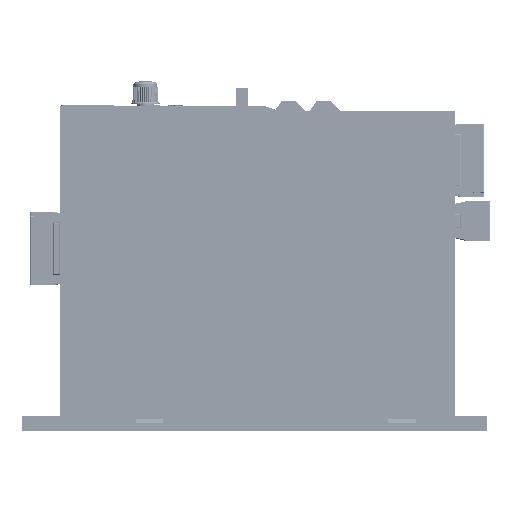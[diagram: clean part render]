
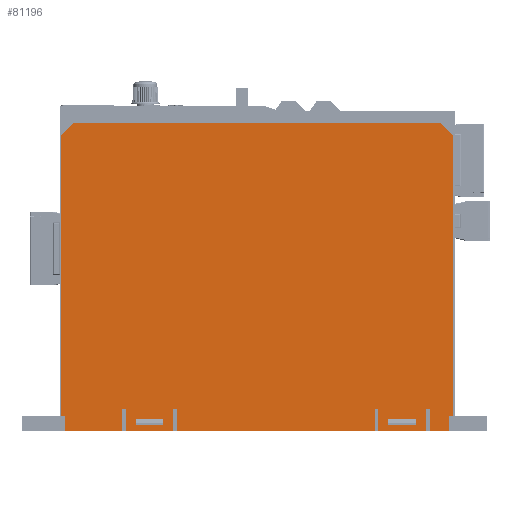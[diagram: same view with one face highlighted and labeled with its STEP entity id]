
A CAD part, front view. The second image highlights one B-rep face of the part: STEP entity #81196.
In plain terms, the highlighted planar face has unit normal (0, -1, 0).
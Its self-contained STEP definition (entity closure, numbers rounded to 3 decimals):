
#81196=ADVANCED_FACE('',(#149916,#149918,#149920),#149922,.T.);
#149916=FACE_BOUND('',#149917,.T.);
#149917=EDGE_LOOP('',(#204791,#204792,#204793,#204794,#204795,#204796,#204797,#204798,
#204799,#204800,#204801,#204802,#204803,#204804,#204805,#204806,#204807,#204808,
#204809,#204810,#204811,#204812,#204813,#204814,#204815,#204816));
#149918=FACE_BOUND('',#149919,.T.);
#149919=EDGE_LOOP('',(#204817,#204818,#204819,#204820));
#149920=FACE_BOUND('',#149921,.T.);
#149921=EDGE_LOOP('',(#204821,#204822,#204823,#204824));
#149922=PLANE('',#149923);
#149923=AXIS2_PLACEMENT_3D('',#149924,#149925,#149926);
#149924=CARTESIAN_POINT('',(-94.,-60.,-8.));
#149925=DIRECTION('',(0.,-1.,0.));
#149926=DIRECTION('',(1.,0.,0.));
#204791=ORIENTED_EDGE('',*,*,#239505,.F.);
#204792=ORIENTED_EDGE('',*,*,#239506,.T.);
#204793=ORIENTED_EDGE('',*,*,#239507,.T.);
#204794=ORIENTED_EDGE('',*,*,#239508,.F.);
#204795=ORIENTED_EDGE('',*,*,#239509,.T.);
#204796=ORIENTED_EDGE('',*,*,#239510,.F.);
#204797=ORIENTED_EDGE('',*,*,#239511,.F.);
#204798=ORIENTED_EDGE('',*,*,#239512,.F.);
#204799=ORIENTED_EDGE('',*,*,#239455,.T.);
#204800=ORIENTED_EDGE('',*,*,#239513,.T.);
#204801=ORIENTED_EDGE('',*,*,#239514,.F.);
#204802=ORIENTED_EDGE('',*,*,#239475,.F.);
#204803=ORIENTED_EDGE('',*,*,#239429,.T.);
#204804=ORIENTED_EDGE('',*,*,#239515,.T.);
#204805=ORIENTED_EDGE('',*,*,#239516,.F.);
#204806=ORIENTED_EDGE('',*,*,#239517,.F.);
#204807=ORIENTED_EDGE('',*,*,#239437,.T.);
#204808=ORIENTED_EDGE('',*,*,#239518,.T.);
#204809=ORIENTED_EDGE('',*,*,#239519,.F.);
#204810=ORIENTED_EDGE('',*,*,#239520,.F.);
#204811=ORIENTED_EDGE('',*,*,#239431,.T.);
#204812=ORIENTED_EDGE('',*,*,#239521,.T.);
#204813=ORIENTED_EDGE('',*,*,#239522,.F.);
#204814=ORIENTED_EDGE('',*,*,#239523,.F.);
#204815=ORIENTED_EDGE('',*,*,#239463,.T.);
#204816=ORIENTED_EDGE('',*,*,#239524,.T.);
#204817=ORIENTED_EDGE('',*,*,#239525,.F.);
#204818=ORIENTED_EDGE('',*,*,#239526,.F.);
#204819=ORIENTED_EDGE('',*,*,#239527,.F.);
#204820=ORIENTED_EDGE('',*,*,#239528,.F.);
#204821=ORIENTED_EDGE('',*,*,#239529,.F.);
#204822=ORIENTED_EDGE('',*,*,#239530,.F.);
#204823=ORIENTED_EDGE('',*,*,#239531,.F.);
#204824=ORIENTED_EDGE('',*,*,#239504,.F.);
#239429=EDGE_CURVE('',#296004,#296002,#296005,.T.);
#239431=EDGE_CURVE('',#296007,#296008,#296009,.T.);
#239437=EDGE_CURVE('',#296020,#296018,#296021,.T.);
#239455=EDGE_CURVE('',#296056,#296054,#296057,.T.);
#239463=EDGE_CURVE('',#296071,#296072,#296073,.T.);
#239475=EDGE_CURVE('',#296004,#296095,#296096,.T.);
#239504=EDGE_CURVE('',#296145,#296143,#296147,.T.);
#239505=EDGE_CURVE('',#296148,#296149,#296150,.T.);
#239506=EDGE_CURVE('',#296148,#296151,#296152,.T.);
#239507=EDGE_CURVE('',#296151,#296153,#296154,.T.);
#239508=EDGE_CURVE('',#296155,#296153,#296156,.T.);
#239509=EDGE_CURVE('',#296155,#296157,#296158,.T.);
#239510=EDGE_CURVE('',#296159,#296157,#296160,.T.);
#239511=EDGE_CURVE('',#296161,#296159,#296162,.T.);
#239512=EDGE_CURVE('',#296056,#296161,#296163,.T.);
#239513=EDGE_CURVE('',#296054,#296164,#296165,.T.);
#239514=EDGE_CURVE('',#296095,#296164,#296166,.T.);
#239515=EDGE_CURVE('',#296002,#296167,#296168,.T.);
#239516=EDGE_CURVE('',#296169,#296167,#296170,.T.);
#239517=EDGE_CURVE('',#296020,#296169,#296171,.T.);
#239518=EDGE_CURVE('',#296018,#296172,#296173,.T.);
#239519=EDGE_CURVE('',#296174,#296172,#296175,.T.);
#239520=EDGE_CURVE('',#296007,#296174,#296176,.T.);
#239521=EDGE_CURVE('',#296008,#296177,#296178,.T.);
#239522=EDGE_CURVE('',#296179,#296177,#296180,.T.);
#239523=EDGE_CURVE('',#296071,#296179,#296181,.T.);
#239524=EDGE_CURVE('',#296072,#296149,#296182,.T.);
#239525=EDGE_CURVE('',#296183,#296184,#296185,.T.);
#239526=EDGE_CURVE('',#296186,#296183,#296187,.T.);
#239527=EDGE_CURVE('',#296188,#296186,#296189,.T.);
#239528=EDGE_CURVE('',#296184,#296188,#296190,.T.);
#239529=EDGE_CURVE('',#296191,#296145,#296192,.T.);
#239530=EDGE_CURVE('',#296193,#296191,#296194,.T.);
#239531=EDGE_CURVE('',#296143,#296193,#296195,.T.);
#296002=VERTEX_POINT('',#440794);
#296004=VERTEX_POINT('',#440798);
#296005=LINE('',#440799,#440800);
#296007=VERTEX_POINT('',#440805);
#296008=VERTEX_POINT('',#440806);
#296009=LINE('',#440807,#440808);
#296018=VERTEX_POINT('',#440826);
#296020=VERTEX_POINT('',#440830);
#296021=LINE('',#440831,#440832);
#296054=VERTEX_POINT('',#440898);
#296056=VERTEX_POINT('',#440902);
#296057=LINE('',#440903,#440904);
#296071=VERTEX_POINT('',#440933);
#296072=VERTEX_POINT('',#440934);
#296073=LINE('',#440935,#440936);
#296095=VERTEX_POINT('',#440981);
#296096=LINE('',#440982,#440983);
#296143=VERTEX_POINT('',#441083);
#296145=VERTEX_POINT('',#441087);
#296147=LINE('',#441091,#441092);
#296148=VERTEX_POINT('',#441094);
#296149=VERTEX_POINT('',#441095);
#296150=LINE('',#441096,#441097);
#296151=VERTEX_POINT('',#441099);
#296152=LINE('',#441100,#441101);
#296153=VERTEX_POINT('',#441103);
#296154=LINE('',#441104,#441105);
#296155=VERTEX_POINT('',#441107);
#296156=LINE('',#441108,#441109);
#296157=VERTEX_POINT('',#441111);
#296158=LINE('',#441112,#441113);
#296159=VERTEX_POINT('',#441115);
#296160=LINE('',#441116,#441117);
#296161=VERTEX_POINT('',#441119);
#296162=LINE('',#441120,#441121);
#296163=LINE('',#441123,#441124);
#296164=VERTEX_POINT('',#441126);
#296165=LINE('',#441127,#441128);
#296166=LINE('',#441130,#441131);
#296167=VERTEX_POINT('',#441133);
#296168=LINE('',#441134,#441135);
#296169=VERTEX_POINT('',#441137);
#296170=LINE('',#441138,#441139);
#296171=LINE('',#441141,#441142);
#296172=VERTEX_POINT('',#441144);
#296173=LINE('',#441145,#441146);
#296174=VERTEX_POINT('',#441148);
#296175=LINE('',#441149,#441150);
#296176=LINE('',#441152,#441153);
#296177=VERTEX_POINT('',#441155);
#296178=LINE('',#441156,#441157);
#296179=VERTEX_POINT('',#441159);
#296180=LINE('',#441160,#441161);
#296181=LINE('',#441163,#441164);
#296182=LINE('',#441166,#441167);
#296183=VERTEX_POINT('',#441169);
#296184=VERTEX_POINT('',#441170);
#296185=LINE('',#441171,#441172);
#296186=VERTEX_POINT('',#441174);
#296187=LINE('',#441175,#441176);
#296188=VERTEX_POINT('',#441178);
#296189=LINE('',#441179,#441180);
#296190=LINE('',#441182,#441183);
#296191=VERTEX_POINT('',#441185);
#296192=LINE('',#441186,#441187);
#296193=VERTEX_POINT('',#441189);
#296194=LINE('',#441190,#441191);
#296195=LINE('',#441193,#441194);
#440794=CARTESIAN_POINT('',(-48.5,-60.,-8.));
#440798=CARTESIAN_POINT('',(-67.5,-60.,-8.));
#440799=CARTESIAN_POINT('',(-67.5,-60.,-8.));
#440800=VECTOR('',#440801,1.);
#440801=DIRECTION('',(1.,0.,0.));
#440805=CARTESIAN_POINT('',(33.5,-60.,-8.));
#440806=CARTESIAN_POINT('',(52.5,-60.,-8.));
#440807=CARTESIAN_POINT('',(33.5,-60.,-8.));
#440808=VECTOR('',#440809,1.);
#440809=DIRECTION('',(1.,0.,0.));
#440826=CARTESIAN_POINT('',(32.,-60.,-8.));
#440830=CARTESIAN_POINT('',(-47.,-60.,-8.));
#440831=CARTESIAN_POINT('',(-47.,-60.,-8.));
#440832=VECTOR('',#440833,1.);
#440833=DIRECTION('',(1.,0.,0.));
#440898=CARTESIAN_POINT('',(-69.,-60.,-8.));
#440902=CARTESIAN_POINT('',(-91.9,-60.,-8.));
#440903=CARTESIAN_POINT('',(-91.9,-60.,-8.));
#440904=VECTOR('',#440905,1.);
#440905=DIRECTION('',(1.,0.,0.));
#440933=CARTESIAN_POINT('',(54.,-60.,-8.));
#440934=CARTESIAN_POINT('',(61.9,-60.,-8.));
#440935=CARTESIAN_POINT('',(54.,-60.,-8.));
#440936=VECTOR('',#440937,1.);
#440937=DIRECTION('',(1.,0.,0.));
#440981=CARTESIAN_POINT('',(-67.5,-60.,1.));
#440982=CARTESIAN_POINT('',(-67.5,-60.,-8.));
#440983=VECTOR('',#440984,1.);
#440984=DIRECTION('',(0.,0.,1.));
#441083=CARTESIAN_POINT('',(37.5,-60.,-5.5));
#441087=CARTESIAN_POINT('',(37.5,-60.,-3.1));
#441091=CARTESIAN_POINT('',(37.5,-60.,-3.1));
#441092=VECTOR('',#441093,1.);
#441093=DIRECTION('',(0.,0.,-1.));
#441094=CARTESIAN_POINT('',(63.5,-60.,-2.));
#441095=CARTESIAN_POINT('',(61.9,-60.,-2.));
#441096=CARTESIAN_POINT('',(63.5,-60.,-2.));
#441097=VECTOR('',#441098,1.);
#441098=DIRECTION('',(-1.,0.,0.));
#441099=CARTESIAN_POINT('',(63.5,-60.,110.));
#441100=CARTESIAN_POINT('',(63.5,-60.,-2.));
#441101=VECTOR('',#441102,1.);
#441102=DIRECTION('',(0.,0.,1.));
#441103=CARTESIAN_POINT('',(58.5,-60.,115.));
#441104=CARTESIAN_POINT('',(63.5,-60.,110.));
#441105=VECTOR('',#441106,1.);
#441106=DIRECTION('',(-0.707,0.,0.707));
#441107=CARTESIAN_POINT('',(-88.5,-60.,115.));
#441108=CARTESIAN_POINT('',(-88.5,-60.,115.));
#441109=VECTOR('',#441110,1.);
#441110=DIRECTION('',(1.,0.,0.));
#441111=CARTESIAN_POINT('',(-93.5,-60.,110.));
#441112=CARTESIAN_POINT('',(-88.5,-60.,115.));
#441113=VECTOR('',#441114,1.);
#441114=DIRECTION('',(-0.707,0.,-0.707));
#441115=CARTESIAN_POINT('',(-93.5,-60.,-2.));
#441116=CARTESIAN_POINT('',(-93.5,-60.,-2.));
#441117=VECTOR('',#441118,1.);
#441118=DIRECTION('',(0.,0.,1.));
#441119=CARTESIAN_POINT('',(-91.9,-60.,-2.));
#441120=CARTESIAN_POINT('',(-91.9,-60.,-2.));
#441121=VECTOR('',#441122,1.);
#441122=DIRECTION('',(-1.,0.,0.));
#441123=CARTESIAN_POINT('',(-91.9,-60.,-8.));
#441124=VECTOR('',#441125,1.);
#441125=DIRECTION('',(0.,0.,1.));
#441126=CARTESIAN_POINT('',(-69.,-60.,1.));
#441127=CARTESIAN_POINT('',(-69.,-60.,-8.));
#441128=VECTOR('',#441129,1.);
#441129=DIRECTION('',(0.,0.,1.));
#441130=CARTESIAN_POINT('',(-67.5,-60.,1.));
#441131=VECTOR('',#441132,1.);
#441132=DIRECTION('',(-1.,0.,0.));
#441133=CARTESIAN_POINT('',(-48.5,-60.,1.));
#441134=CARTESIAN_POINT('',(-48.5,-60.,-8.));
#441135=VECTOR('',#441136,1.);
#441136=DIRECTION('',(0.,0.,1.));
#441137=CARTESIAN_POINT('',(-47.,-60.,1.));
#441138=CARTESIAN_POINT('',(-47.,-60.,1.));
#441139=VECTOR('',#441140,1.);
#441140=DIRECTION('',(-1.,0.,0.));
#441141=CARTESIAN_POINT('',(-47.,-60.,-8.));
#441142=VECTOR('',#441143,1.);
#441143=DIRECTION('',(0.,0.,1.));
#441144=CARTESIAN_POINT('',(32.,-60.,1.));
#441145=CARTESIAN_POINT('',(32.,-60.,-8.));
#441146=VECTOR('',#441147,1.);
#441147=DIRECTION('',(0.,0.,1.));
#441148=CARTESIAN_POINT('',(33.5,-60.,1.));
#441149=CARTESIAN_POINT('',(33.5,-60.,1.));
#441150=VECTOR('',#441151,1.);
#441151=DIRECTION('',(-1.,0.,0.));
#441152=CARTESIAN_POINT('',(33.5,-60.,-8.));
#441153=VECTOR('',#441154,1.);
#441154=DIRECTION('',(0.,0.,1.));
#441155=CARTESIAN_POINT('',(52.5,-60.,1.));
#441156=CARTESIAN_POINT('',(52.5,-60.,-8.));
#441157=VECTOR('',#441158,1.);
#441158=DIRECTION('',(0.,0.,1.));
#441159=CARTESIAN_POINT('',(54.,-60.,1.));
#441160=CARTESIAN_POINT('',(54.,-60.,1.));
#441161=VECTOR('',#441162,1.);
#441162=DIRECTION('',(-1.,0.,0.));
#441163=CARTESIAN_POINT('',(54.,-60.,-8.));
#441164=VECTOR('',#441165,1.);
#441165=DIRECTION('',(0.,0.,1.));
#441166=CARTESIAN_POINT('',(61.9,-60.,-8.));
#441167=VECTOR('',#441168,1.);
#441168=DIRECTION('',(0.,0.,1.));
#441169=CARTESIAN_POINT('',(-52.5,-60.,-3.1));
#441170=CARTESIAN_POINT('',(-63.5,-60.,-3.1));
#441171=CARTESIAN_POINT('',(-52.5,-60.,-3.1));
#441172=VECTOR('',#441173,1.);
#441173=DIRECTION('',(-1.,0.,0.));
#441174=CARTESIAN_POINT('',(-52.5,-60.,-5.5));
#441175=CARTESIAN_POINT('',(-52.5,-60.,-5.5));
#441176=VECTOR('',#441177,1.);
#441177=DIRECTION('',(0.,0.,1.));
#441178=CARTESIAN_POINT('',(-63.5,-60.,-5.5));
#441179=CARTESIAN_POINT('',(-63.5,-60.,-5.5));
#441180=VECTOR('',#441181,1.);
#441181=DIRECTION('',(1.,0.,0.));
#441182=CARTESIAN_POINT('',(-63.5,-60.,-3.1));
#441183=VECTOR('',#441184,1.);
#441184=DIRECTION('',(0.,0.,-1.));
#441185=CARTESIAN_POINT('',(48.5,-60.,-3.1));
#441186=CARTESIAN_POINT('',(48.5,-60.,-3.1));
#441187=VECTOR('',#441188,1.);
#441188=DIRECTION('',(-1.,0.,0.));
#441189=CARTESIAN_POINT('',(48.5,-60.,-5.5));
#441190=CARTESIAN_POINT('',(48.5,-60.,-5.5));
#441191=VECTOR('',#441192,1.);
#441192=DIRECTION('',(0.,0.,1.));
#441193=CARTESIAN_POINT('',(37.5,-60.,-5.5));
#441194=VECTOR('',#441195,1.);
#441195=DIRECTION('',(1.,0.,0.));
